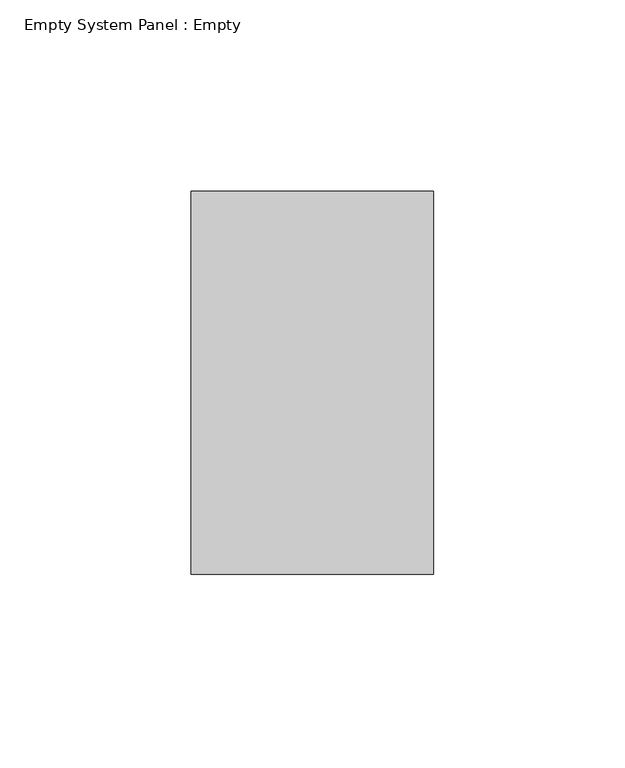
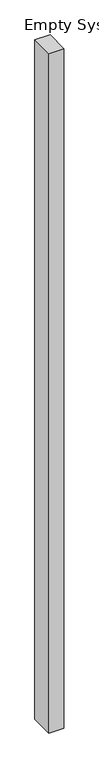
"""IFC4 building model written with IfcOpenShell, lengths in millimetres: plate geometry, Empty System Panel : Empty."""

from ifc_helpers import new_model, si_unit, origin, origin_with_axes, place, context, project, spatial, polyline, outline, extrude, source, transform, mapped, element, save


def empty_system_panel_empty_80e3f5b0(model_context):
    return source(origin(), model_context, "Body", "SweptSolid", [
        extrude(outline(polyline([(31.6152237, -50.0), (-31.6152237, -50.0), (-31.6152237, 50.0), (31.6152237, 50.0), (31.6152237, -50.0)])), origin_with_axes(), (0.0, 0.0, 1.0), 3000.0),
    ])


if __name__ == "__main__":
    model = new_model("IFC4")
    model_context = context("Model", 3, world=origin())
    ifc_project = project(units=[si_unit("LENGTHUNIT", "METRE", prefix="MILLI")], contexts=[model_context])
    site = spatial("IfcSite", under=ifc_project)
    building = spatial("IfcBuilding", under=site)
    placement = place(None, origin())
    empty_system_panel_empty_shape = empty_system_panel_empty_80e3f5b0(model_context)
    element("IfcPlate", 1, ObjectType="Empty System Panel : Empty", at=placement, inside=building, context=model_context, shape_type="MappedRepresentation", body=[
        mapped(empty_system_panel_empty_shape, transform((0.0, 0.0, 0.0), x_axis=(1.0, 0.0, 0.0), y_axis=(0.0, 1.0, 0.0), z_axis=(0.0, 0.0, 1.0))),
    ])
    save(model, "model.ifc")
